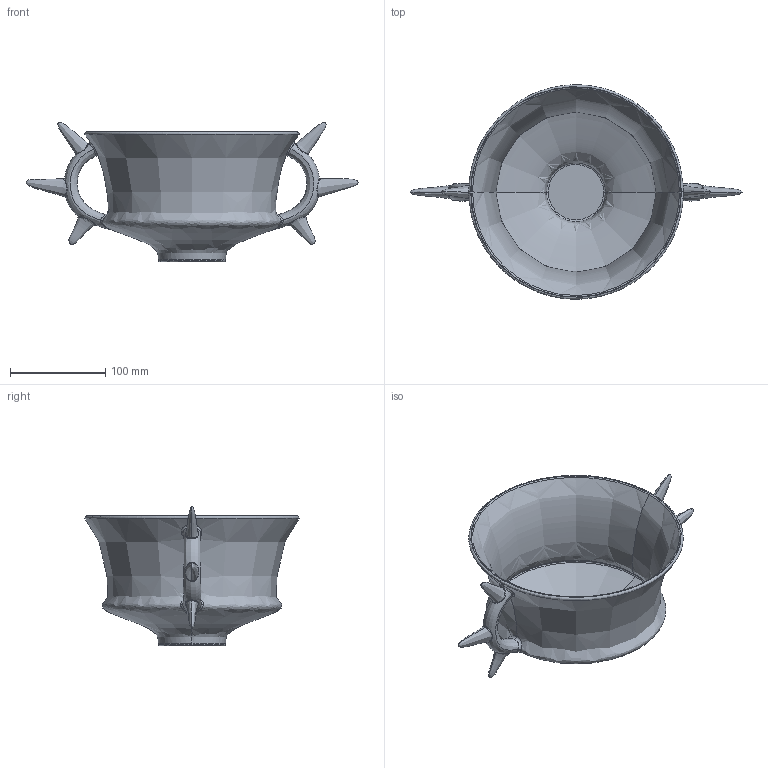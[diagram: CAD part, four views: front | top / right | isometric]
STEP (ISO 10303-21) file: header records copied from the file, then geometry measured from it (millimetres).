
FILE_DESCRIPTION(/* description */ (''),/* implementation_level */ '2;1');
FILE_NAME(/* name */ 'Batos',/* time_stamp */ '2025-07-10T11:26:25+02:00',/* author */ (''),/* organization */ (''),/* preprocessor_version */ 'ST-DEVELOPER v16.5',/* originating_system */ 'Rhino 7.37',/* authorisation */ '');
FILE_SCHEMA (('AUTOMOTIVE_DESIGN'));
Length unit declared in the file: millimetre
Products named in the file (1): Document
Bounding box: 348.33 x 224.81 x 146.13 mm (x, y, z)
Volume: 424291.5 mm3; surface area: 198871.8 mm2
Topology: 1 solids, 1 shells, 73 faces, 185 edges, 103 vertices
Faces by surface type: bspline 66, cylinder 4, plane 3
Entity records: 10037 total; most frequent: CARTESIAN_POINT 9023, ORIENTED_EDGE 346, EDGE_CURVE 173, B_SPLINE_CURVE_WITH_KNOTS 104, VERTEX_POINT 103, EDGE_LOOP 78, ADVANCED_FACE 73, FACE_OUTER_BOUND 73
